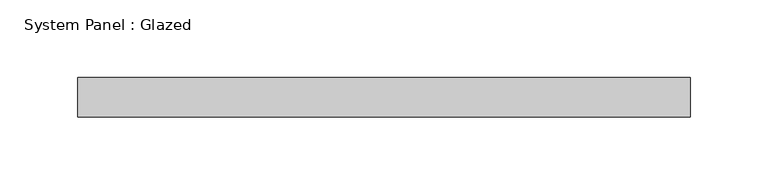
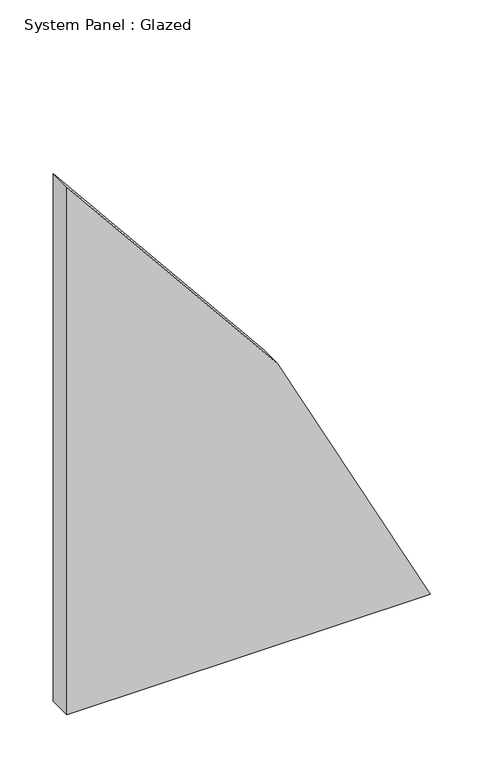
"""IFC4 building model written with IfcOpenShell, lengths in millimetres: plate geometry, System Panel : Glazed."""

from ifc_helpers import new_model, si_unit, point, frame, frame_2d, origin, place, context, project, spatial, polyline, circle_curve, trimmed, segment, composite_curve, outline, extrude, source, transform, mapped, element, save


def system_panel_glazed_82701839(model_context):
    return source(origin(), model_context, "Body", "SweptSolid", [
        extrude(outline(composite_curve([segment(polyline([(0.0, -196.8622586), (0.0, 196.8622586)]), True, "CONTINUOUS"), segment(trimmed(circle_curve(frame_2d((-641.35, -1447.8122586)), 1765.3), [point((0.0, 196.8622586))], [point((604.2053731, -196.8622586))], False, "CARTESIAN"), True, "CONTINUOUS"), segment(polyline([(604.2053731, -196.8622586), (0.0, -196.8622586)]), True, "CONTINUOUS")], self_intersect=False)), frame((0.0, 19.05, 0.0), z_axis=(0.0, 1.0, 0.0), x_axis=(0.0, 0.0, 1.0)), (0.0, 0.0, 1.0), 25.4),
    ])


if __name__ == "__main__":
    model = new_model("IFC4")
    model_context = context("Model", 3, world=origin())
    ifc_project = project(units=[si_unit("LENGTHUNIT", "METRE", prefix="MILLI")], contexts=[model_context])
    site = spatial("IfcSite", under=ifc_project)
    building = spatial("IfcBuilding", under=site)
    placement = place(None, origin())
    system_panel_glazed_shape = system_panel_glazed_82701839(model_context)
    element("IfcPlate", 1, ObjectType="System Panel : Glazed", at=placement, inside=building, context=model_context, shape_type="MappedRepresentation", body=[
        mapped(system_panel_glazed_shape, transform((0.0, 0.0, 0.0), x_axis=(1.0, 0.0, 0.0), y_axis=(0.0, 1.0, 0.0), z_axis=(0.0, 0.0, 1.0))),
    ])
    save(model, "model.ifc")
